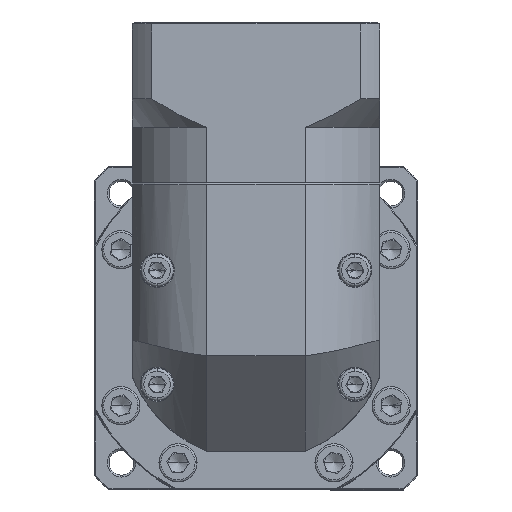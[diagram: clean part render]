
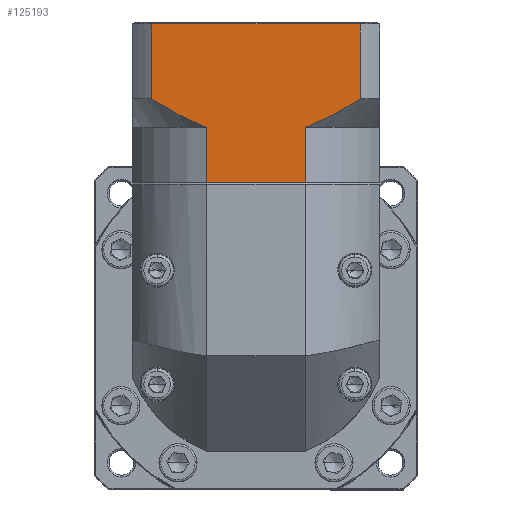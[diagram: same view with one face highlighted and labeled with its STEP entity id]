
A CAD part, top view. The second image highlights one B-rep face of the part: STEP entity #125193.
In plain terms, the highlighted planar face has unit normal (0, 0, 1).
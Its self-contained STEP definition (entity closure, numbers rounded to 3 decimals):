
#1439 = CARTESIAN_POINT ( 'NONE',  ( -55.287, 100.188, 22.63 ) ) ;
#2194 = CARTESIAN_POINT ( 'NONE',  ( -55.287, 100.188, 22.63 ) ) ;
#4959 = CARTESIAN_POINT ( 'NONE',  ( -74.797, 85.688, 22.63 ) ) ;
#5533 = PLANE ( 'NONE',  #56136 ) ;
#11372 = CARTESIAN_POINT ( 'NONE',  ( -57.825, 101.13, 22.63 ) ) ;
#12334 = ORIENTED_EDGE ( 'NONE', *, *, #102948, .F. ) ;
#16819 = ORIENTED_EDGE ( 'NONE', *, *, #72395, .F. ) ;
#17751 = ORIENTED_EDGE ( 'NONE', *, *, #77050, .T. ) ;
#19878 = B_SPLINE_CURVE_WITH_KNOTS ( 'NONE', 3,
 ( #96125, #139100, #96609, #41951, #20783, #64540, #11372, #20290 ),
 .UNSPECIFIED., .F., .F.,
 ( 4, 2, 2, 4 ),
 ( 0.058, 0.062, 0.066, 0.074 ),
 .UNSPECIFIED. ) ;
#20290 = CARTESIAN_POINT ( 'NONE',  ( -55.287, 100.188, 22.63 ) ) ;
#20783 = CARTESIAN_POINT ( 'NONE',  ( -63.873, 104.185, 22.63 ) ) ;
#22112 = CARTESIAN_POINT ( 'NONE',  ( -24.286, 102.329, 22.63 ) ) ;
#22587 = CARTESIAN_POINT ( 'NONE',  ( -26.14, 101.478, 22.63 ) ) ;
#26043 = ORIENTED_EDGE ( 'NONE', *, *, #130775, .T. ) ;
#26433 = EDGE_CURVE ( 'NONE', #80669, #34745, #128218, .T. ) ;
#28649 = VERTEX_POINT ( 'NONE', #95228 ) ;
#34745 = VERTEX_POINT ( 'NONE', #52279 ) ;
#34905 = CARTESIAN_POINT ( 'NONE',  ( -69.683, 127.388, 22.63 ) ) ;
#35049 = VECTOR ( 'NONE', #99946, 1000. ) ;
#35878 = CARTESIAN_POINT ( 'NONE',  ( -55.287, 85.688, 22.63 ) ) ;
#36487 = DIRECTION ( 'NONE',  ( 1., 0., 0. ) ) ;
#37802 = VERTEX_POINT ( 'NONE', #35878 ) ;
#39807 = EDGE_LOOP ( 'NONE', ( #40818, #17751, #12334, #46232, #16819, #26043, #83516, #103901 ) ) ;
#40818 = ORIENTED_EDGE ( 'NONE', *, *, #26433, .F. ) ;
#41911 = CARTESIAN_POINT ( 'NONE',  ( -29.307, 100.188, 22.63 ) ) ;
#41951 = CARTESIAN_POINT ( 'NONE',  ( -65.059, 104.855, 22.63 ) ) ;
#42844 = CARTESIAN_POINT ( 'NONE',  ( -28.665, 100.426, 22.63 ) ) ;
#43188 = DIRECTION ( 'NONE',  ( 0., -1., 0. ) ) ;
#45461 = FACE_OUTER_BOUND ( 'NONE', #39807, .T. ) ;
#46232 = ORIENTED_EDGE ( 'NONE', *, *, #133411, .T. ) ;
#48094 = LINE ( 'NONE', #87939, #59877 ) ;
#48875 = LINE ( 'NONE', #2194, #92703 ) ;
#52279 = CARTESIAN_POINT ( 'NONE',  ( -14.911, 107.688, 22.63 ) ) ;
#56136 = AXIS2_PLACEMENT_3D ( 'NONE', #124283, #102997, #92191 ) ;
#59877 = VECTOR ( 'NONE', #120048, 1000. ) ;
#61201 = CARTESIAN_POINT ( 'NONE',  ( -29.307, 100.188, 22.63 ) ) ;
#62376 = VECTOR ( 'NONE', #106836, 1000. ) ;
#64494 = CARTESIAN_POINT ( 'NONE',  ( -17.179, 106.226, 22.63 ) ) ;
#64540 = CARTESIAN_POINT ( 'NONE',  ( -60.277, 102.275, 22.63 ) ) ;
#69519 = VERTEX_POINT ( 'NONE', #34905 ) ;
#72395 = EDGE_CURVE ( 'NONE', #37802, #114049, #48875, .T. ) ;
#77050 = EDGE_CURVE ( 'NONE', #80669, #69519, #48094, .T. ) ;
#80669 = VERTEX_POINT ( 'NONE', #125900 ) ;
#83516 = ORIENTED_EDGE ( 'NONE', *, *, #138796, .F. ) ;
#85168 = CARTESIAN_POINT ( 'NONE',  ( -29.307, 100.188, 22.63 ) ) ;
#86684 = CARTESIAN_POINT ( 'NONE',  ( -28.026, 100.679, 22.63 ) ) ;
#87939 = CARTESIAN_POINT ( 'NONE',  ( -74.797, 127.388, 22.63 ) ) ;
#88490 = VECTOR ( 'NONE', #43188, 1000. ) ;
#89111 = CARTESIAN_POINT ( 'NONE',  ( -69.683, 100.188, 22.63 ) ) ;
#89171 = LINE ( 'NONE', #4959, #114497 ) ;
#92191 = DIRECTION ( 'NONE',  ( 0., 1., 0. ) ) ;
#92703 = VECTOR ( 'NONE', #132307, 1000. ) ;
#95228 = CARTESIAN_POINT ( 'NONE',  ( -69.683, 107.688, 22.63 ) ) ;
#96081 = CARTESIAN_POINT ( 'NONE',  ( -19.493, 104.839, 22.63 ) ) ;
#96125 = CARTESIAN_POINT ( 'NONE',  ( -69.683, 107.688, 22.63 ) ) ;
#96609 = CARTESIAN_POINT ( 'NONE',  ( -67.394, 106.239, 22.63 ) ) ;
#97031 = CARTESIAN_POINT ( 'NONE',  ( -14.911, 107.688, 22.63 ) ) ;
#97880 = CARTESIAN_POINT ( 'NONE',  ( -14.911, 100.188, 22.63 ) ) ;
#99946 = DIRECTION ( 'NONE',  ( 0., 1., 0. ) ) ;
#102948 = EDGE_CURVE ( 'NONE', #28649, #69519, #136275, .T. ) ;
#102997 = DIRECTION ( 'NONE',  ( 0., 0., -1. ) ) ;
#103901 = ORIENTED_EDGE ( 'NONE', *, *, #104933, .T. ) ;
#104933 = EDGE_CURVE ( 'NONE', #110180, #34745, #125634, .T. ) ;
#106836 = DIRECTION ( 'NONE',  ( 0., -1., 0. ) ) ;
#110180 = VERTEX_POINT ( 'NONE', #61201 ) ;
#112354 = CARTESIAN_POINT ( 'NONE',  ( -29.307, 85.688, 22.63 ) ) ;
#114049 = VERTEX_POINT ( 'NONE', #1439 ) ;
#114497 = VECTOR ( 'NONE', #36487, 1000. ) ;
#117202 = LINE ( 'NONE', #85168, #88490 ) ;
#118300 = CARTESIAN_POINT ( 'NONE',  ( -26.764, 101.205, 22.63 ) ) ;
#119596 = VERTEX_POINT ( 'NONE', #112354 ) ;
#120048 = DIRECTION ( 'NONE',  ( -1., 0., 0. ) ) ;
#124283 = CARTESIAN_POINT ( 'NONE',  ( -74.797, 127.888, 22.63 ) ) ;
#125193 = ADVANCED_FACE ( 'NONE', ( #45461 ), #5533, .F. ) ;
#125634 = B_SPLINE_CURVE_WITH_KNOTS ( 'NONE', 3,
 ( #41911, #42844, #86684, #118300, #22587, #22112, #128711, #96081, #64494, #97031 ),
 .UNSPECIFIED., .F., .F.,
 ( 4, 2, 2, 2, 4 ),
 ( 0.101, 0.103, 0.105, 0.109, 0.117 ),
 .UNSPECIFIED. ) ;
#125900 = CARTESIAN_POINT ( 'NONE',  ( -14.911, 127.388, 22.63 ) ) ;
#128218 = LINE ( 'NONE', #97880, #62376 ) ;
#128711 = CARTESIAN_POINT ( 'NONE',  ( -23.074, 102.934, 22.63 ) ) ;
#130775 = EDGE_CURVE ( 'NONE', #37802, #119596, #89171, .T. ) ;
#132307 = DIRECTION ( 'NONE',  ( 0., 1., 0. ) ) ;
#133411 = EDGE_CURVE ( 'NONE', #28649, #114049, #19878, .T. ) ;
#136275 = LINE ( 'NONE', #89111, #35049 ) ;
#138796 = EDGE_CURVE ( 'NONE', #110180, #119596, #117202, .T. ) ;
#139100 = CARTESIAN_POINT ( 'NONE',  ( -68.545, 106.955, 22.63 ) ) ;
